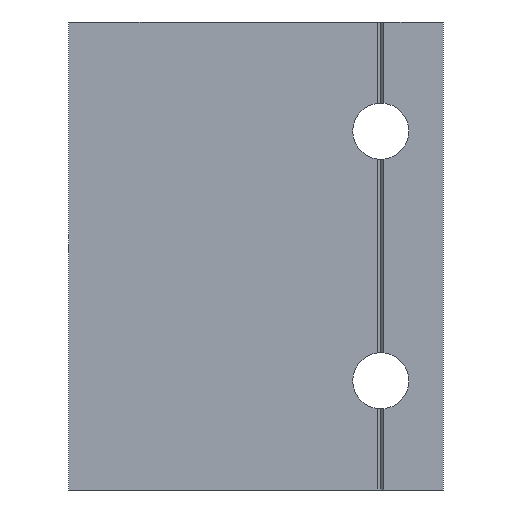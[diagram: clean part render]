
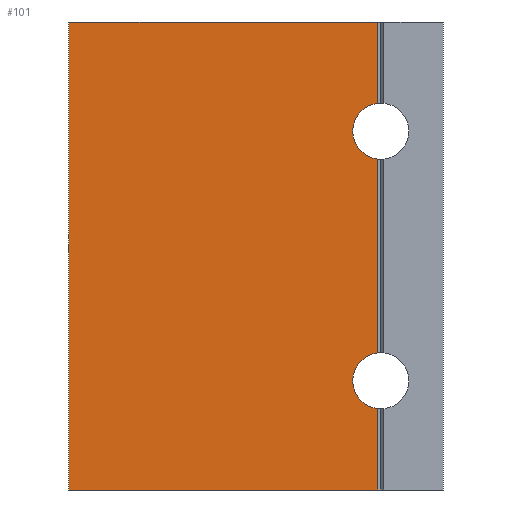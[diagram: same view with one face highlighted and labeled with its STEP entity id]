
A CAD part, front view. The second image highlights one B-rep face of the part: STEP entity #101.
In plain terms, the highlighted planar face has unit normal (0, -1, 0).
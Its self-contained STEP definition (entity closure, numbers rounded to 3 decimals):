
#101 = ADVANCED_FACE ( 'NONE', ( #363 ), #1686, .F. ) ;
#234 = DIRECTION ( 'NONE',  ( 0., 0., 1. ) ) ;
#235 = CARTESIAN_POINT ( 'NONE',  ( 49.5, 0., -37.5 ) ) ;
#272 = DIRECTION ( 'NONE',  ( 0., 0., 1. ) ) ;
#275 = CARTESIAN_POINT ( 'NONE',  ( 49.5, 0., -37.5 ) ) ;
#279 = DIRECTION ( 'NONE',  ( 0., 0., -1. ) ) ;
#280 = DIRECTION ( 'NONE',  ( 0., -1., 0. ) ) ;
#282 = CARTESIAN_POINT ( 'NONE',  ( 50., 0., 20. ) ) ;
#349 = DIRECTION ( 'NONE',  ( 0., 0., -1. ) ) ;
#350 = DIRECTION ( 'NONE',  ( 0., -1., 0. ) ) ;
#351 = CARTESIAN_POINT ( 'NONE',  ( 50., 0., -20. ) ) ;
#363 = FACE_OUTER_BOUND ( 'NONE', #390, .T. ) ;
#366 = VERTEX_POINT ( 'NONE', #1608 ) ;
#390 = EDGE_LOOP ( 'NONE', ( #1164, #1163, #1162, #1161, #1160, #1159, #1158, #1157 ) ) ;
#453 = VERTEX_POINT ( 'NONE', #1605 ) ;
#457 = VERTEX_POINT ( 'NONE', #1604 ) ;
#563 = VECTOR ( 'NONE', #1352, 1000. ) ;
#566 = LINE ( 'NONE', #1353, #563 ) ;
#583 = VECTOR ( 'NONE', #1397, 1000. ) ;
#587 = LINE ( 'NONE', #1399, #583 ) ;
#627 = VECTOR ( 'NONE', #1466, 1000. ) ;
#630 = LINE ( 'NONE', #1467, #627 ) ;
#662 = VECTOR ( 'NONE', #1332, 1000. ) ;
#669 = LINE ( 'NONE', #1366, #662 ) ;
#701 = CARTESIAN_POINT ( 'NONE',  ( 49.5, 0., -15.528 ) ) ;
#704 = CARTESIAN_POINT ( 'NONE',  ( 49.5, 0., -24.472 ) ) ;
#709 = CARTESIAN_POINT ( 'NONE',  ( 49.5, 0., 24.472 ) ) ;
#712 = CARTESIAN_POINT ( 'NONE',  ( 49.5, 0., 37.5 ) ) ;
#714 = CARTESIAN_POINT ( 'NONE',  ( 49.5, 0., 15.528 ) ) ;
#786 = AXIS2_PLACEMENT_3D ( 'NONE', #1665, #1592, #1701 ) ;
#795 = EDGE_CURVE ( 'NONE', #988, #992, #1786, .T. ) ;
#802 = EDGE_CURVE ( 'NONE', #997, #1003, #1783, .T. ) ;
#832 = EDGE_CURVE ( 'NONE', #988, #1003, #1740, .T. ) ;
#842 = EDGE_CURVE ( 'NONE', #997, #1001, #1727, .T. ) ;
#874 = AXIS2_PLACEMENT_3D ( 'NONE', #282, #280, #279 ) ;
#878 = AXIS2_PLACEMENT_3D ( 'NONE', #351, #350, #349 ) ;
#891 = EDGE_CURVE ( 'NONE', #453, #457, #669, .T. ) ;
#910 = EDGE_CURVE ( 'NONE', #453, #1001, #630, .T. ) ;
#931 = EDGE_CURVE ( 'NONE', #457, #366, #587, .T. ) ;
#943 = EDGE_CURVE ( 'NONE', #366, #992, #566, .T. ) ;
#988 = VERTEX_POINT ( 'NONE', #701 ) ;
#992 = VERTEX_POINT ( 'NONE', #704 ) ;
#997 = VERTEX_POINT ( 'NONE', #709 ) ;
#1001 = VERTEX_POINT ( 'NONE', #712 ) ;
#1003 = VERTEX_POINT ( 'NONE', #714 ) ;
#1157 = ORIENTED_EDGE ( 'NONE', *, *, #931, .T. ) ;
#1158 = ORIENTED_EDGE ( 'NONE', *, *, #891, .T. ) ;
#1159 = ORIENTED_EDGE ( 'NONE', *, *, #910, .F. ) ;
#1160 = ORIENTED_EDGE ( 'NONE', *, *, #842, .T. ) ;
#1161 = ORIENTED_EDGE ( 'NONE', *, *, #802, .F. ) ;
#1162 = ORIENTED_EDGE ( 'NONE', *, *, #832, .T. ) ;
#1163 = ORIENTED_EDGE ( 'NONE', *, *, #795, .F. ) ;
#1164 = ORIENTED_EDGE ( 'NONE', *, *, #943, .T. ) ;
#1332 = DIRECTION ( 'NONE',  ( 0., 0., -1. ) ) ;
#1352 = DIRECTION ( 'NONE',  ( 0., 0., 1. ) ) ;
#1353 = CARTESIAN_POINT ( 'NONE',  ( 49.5, 0., -37.5 ) ) ;
#1366 = CARTESIAN_POINT ( 'NONE',  ( 0., 0., 37.5 ) ) ;
#1397 = DIRECTION ( 'NONE',  ( 1., 0., 0. ) ) ;
#1399 = CARTESIAN_POINT ( 'NONE',  ( 0., 0., -37.5 ) ) ;
#1466 = DIRECTION ( 'NONE',  ( 1., 0., 0. ) ) ;
#1467 = CARTESIAN_POINT ( 'NONE',  ( 0., 0., 37.5 ) ) ;
#1592 = DIRECTION ( 'NONE',  ( 0., 1., 0. ) ) ;
#1604 = CARTESIAN_POINT ( 'NONE',  ( 0., 0., -37.5 ) ) ;
#1605 = CARTESIAN_POINT ( 'NONE',  ( 0., 0., 37.5 ) ) ;
#1608 = CARTESIAN_POINT ( 'NONE',  ( 49.5, 0., -37.5 ) ) ;
#1665 = CARTESIAN_POINT ( 'NONE',  ( 0., 0., 37.5 ) ) ;
#1686 = PLANE ( 'NONE',  #786 ) ;
#1701 = DIRECTION ( 'NONE',  ( 0., 0., 1. ) ) ;
#1725 = VECTOR ( 'NONE', #234, 1000. ) ;
#1727 = LINE ( 'NONE', #235, #1725 ) ;
#1737 = VECTOR ( 'NONE', #272, 1000. ) ;
#1740 = LINE ( 'NONE', #275, #1737 ) ;
#1783 = CIRCLE ( 'NONE', #874, 4.5 ) ;
#1786 = CIRCLE ( 'NONE', #878, 4.5 ) ;
